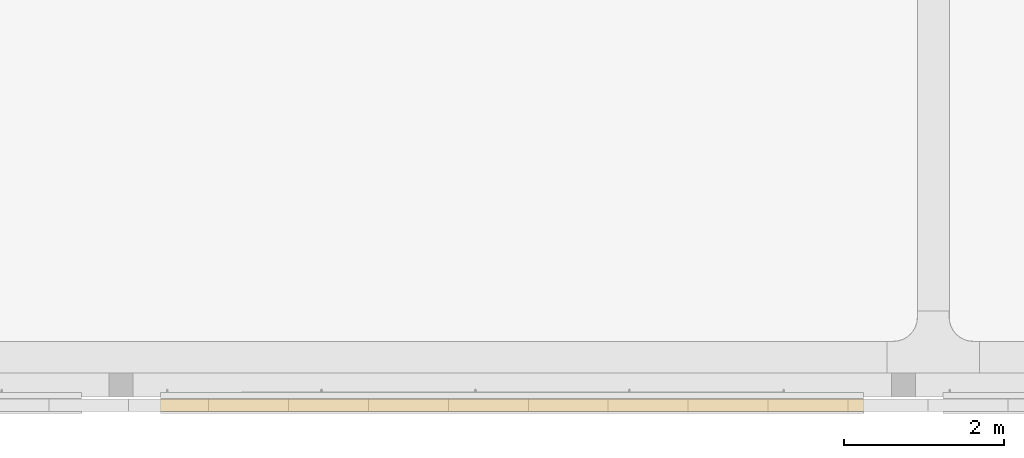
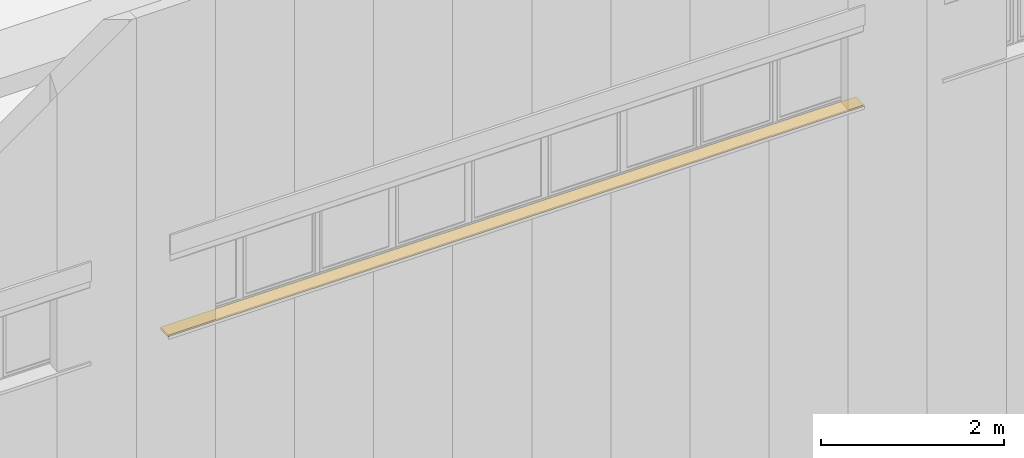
# One storey, part 218 of 302: 1 curtain wall, 1 opening, 1 element without a shape of its own.
"""IFC2X3 building model written with IfcOpenShell, lengths in metres."""

import ifcopenshell
import ifcopenshell.guid

model = None  # the IFC model being written
_history = None  # IfcOwnerHistory: only IFC2X3 demands one
_inside = {}  # id of a spatial element -> (the spatial element, [elements in it])
_under = {}  # id of a project, library or spatial element -> (it, [spatial elements below it])
_declared = {}  # id of a project -> (the project, [libraries it declares])
_typed = {}  # id of a type object -> (the type object, [elements of that type])
_made_of = {}  # id of a material, layer set ... -> (it, [elements and type objects made of it])


def new_model(schema):
    """Start an empty IFC model of exactly this schema.

    Asked for "IFC4X3", IfcOpenShell would pick the latest addendum, in which some entities
    have other attributes; the version numbers below select the first issue.
    IFC2X3 requires an IfcOwnerHistory on every rooted entity: one is made here for all.
    """
    global model, _history
    if schema == "IFC4X3":
        model = ifcopenshell.file(schema_version=(4, 3, 0, 0))
    else:
        model = ifcopenshell.file(schema=schema)
    _inside.clear()
    _under.clear()
    _declared.clear()
    _typed.clear()
    _made_of.clear()
    _history = None
    if model.schema == "IFC2X3":
        org = make("IfcOrganization", Name="unknown")
        user = make(
            "IfcPersonAndOrganization",
            ThePerson=make("IfcPerson", FamilyName="unknown"),
            TheOrganization=org,
        )
        app = make(
            "IfcApplication",
            ApplicationDeveloper=org,
            Version="unknown",
            ApplicationFullName="unknown",
            ApplicationIdentifier="unknown",
        )
        _history = make(
            "IfcOwnerHistory",
            OwningUser=user,
            OwningApplication=app,
            ChangeAction="ADDED",
            CreationDate=0,
        )
    return model


def make(cls, **values):
    """One entity of the class cls with the attributes given. An attribute that is None is left unset."""
    return model.create_entity(
        cls, **{name: value for name, value in values.items() if value is not None}
    )


def entity(cls, *values):
    """Any entity or typed value of the class cls, its attributes in the order of the schema. None: left unset."""
    e = model.create_entity(cls)
    for i, value in enumerate(values):
        if value is not None:
            e[i] = value
    return e


def rooted(cls, **values):
    """An entity with a GlobalId (a new one), such as an element, a storey or a relation."""
    return make(cls, GlobalId=ifcopenshell.guid.new(), OwnerHistory=_history, **values)


def si_unit(unit_type, name, prefix=None):
    """IfcSIUnit, for example si_unit("LENGTHUNIT", "METRE", prefix="MILLI")."""
    return make("IfcSIUnit", UnitType=unit_type, Prefix=prefix, Name=name)


def converted_unit(unit_type, name, factor, base, dimensions=None, offset=None):
    """IfcConversionBasedUnit, such as the inch: factor (a typed value) times the base unit."""
    return make(
        "IfcConversionBasedUnit"
        if offset is None
        else "IfcConversionBasedUnitWithOffset",
        ConversionOffset=offset,
        Dimensions=None
        if dimensions is None
        else entity("IfcDimensionalExponents", *dimensions),
        UnitType=unit_type,
        Name=name,
        ConversionFactor=make(
            "IfcMeasureWithUnit", ValueComponent=factor, UnitComponent=base
        ),
    )


def derived_unit(unit_type, elements):
    """IfcDerivedUnit: a product of units, each with its exponent."""
    return make(
        "IfcDerivedUnit",
        Elements=[
            make("IfcDerivedUnitElement", Unit=unit, Exponent=power)
            for unit, power in elements
        ],
        UnitType=unit_type,
    )


def assignment(units):
    """IfcUnitAssignment: the units of a project."""
    return None if units is None else make("IfcUnitAssignment", Units=units)


def point(xyz):
    """IfcCartesianPoint."""
    return None if xyz is None else make("IfcCartesianPoint", Coordinates=xyz)


def direction(xyz):
    """IfcDirection."""
    return None if xyz is None else make("IfcDirection", DirectionRatios=xyz)


def frame(location, z_axis=None, x_axis=None):
    """IfcAxis2Placement3D, a coordinate frame: its origin and axes. An axis left out is left unset."""
    return make(
        "IfcAxis2Placement3D",
        Location=point(location),
        Axis=direction(z_axis),
        RefDirection=direction(x_axis),
    )


def frame_2d(location, x_axis=None):
    """IfcAxis2Placement2D, a coordinate frame in the plane: its origin and x axis."""
    return make(
        "IfcAxis2Placement2D", Location=point(location), RefDirection=direction(x_axis)
    )


def origin():
    """The frame at (0, 0, 0) with its axes left unset."""
    return frame((0.0, 0.0, 0.0))


def place(relative_to, where):
    """IfcLocalPlacement: puts the frame where relative to a parent placement (None: the world)."""
    return make(
        "IfcLocalPlacement", PlacementRelTo=relative_to, RelativePlacement=where
    )


def context(
    kind, dimensions, precision=None, world=None, true_north=None, identifier=None
):
    """IfcGeometricRepresentationContext, for example the 3D "Model" context."""
    return make(
        "IfcGeometricRepresentationContext",
        ContextIdentifier=identifier,
        ContextType=kind,
        CoordinateSpaceDimension=dimensions,
        Precision=precision,
        WorldCoordinateSystem=world,
        TrueNorth=true_north,
    )


def subcontext(parent, identifier, kind, view, scale=None):
    """IfcGeometricRepresentationSubContext, for example "Body" below "Model"."""
    return make(
        "IfcGeometricRepresentationSubContext",
        ContextIdentifier=identifier,
        ContextType=kind,
        ParentContext=parent,
        TargetScale=scale,
        TargetView=view,
    )


def project(units=None, contexts=None):
    """IfcProject with its units and contexts."""
    return rooted(
        "IfcProject",
        Name="project",
        RepresentationContexts=contexts,
        UnitsInContext=assignment(units),
    )


def spatial(cls, under=None, at=None, **own):
    """A site, building, storey or space (cls), placed at a placement, below another one or the project."""
    s = rooted(cls, ObjectPlacement=at, **own)
    if under is not None:
        _under.setdefault(under.id(), (under, []))[1].append(s)
    return s


def profile(cls, at=None, kind="AREA", **sizes):
    """A parametric profile (cls). Its sizes go by their IFC names, for example OverallWidth=200.0."""
    return make(cls, ProfileType=kind, Position=at, **sizes)


def rectangle(**sizes):
    """IfcRectangleProfileDef."""
    return profile("IfcRectangleProfileDef", **sizes)


def extrude(swept, where, along, depth):
    """IfcExtrudedAreaSolid: the profile swept, set in the frame where, extruded along a direction by depth."""
    return make(
        "IfcExtrudedAreaSolid",
        SweptArea=swept,
        Position=where,
        ExtrudedDirection=direction(along),
        Depth=depth,
    )


def faces_of(points, faces, orient=None, outer=None):
    """IfcFace entities. A face is a list of loops; a loop is a list of indices into points, from 0.

    orient and outer hold one flag for each loop. By default every Orientation is true, the
    first loop of a face is its IfcFaceOuterBound and the others are IfcFaceBound.
    """
    made = []
    for i, loops in enumerate(faces):
        bounds = []
        for j, loop in enumerate(loops):
            is_outer = j == 0 if outer is None else outer[i][j]
            bounds.append(
                make(
                    "IfcFaceOuterBound" if is_outer else "IfcFaceBound",
                    Bound=make("IfcPolyLoop", Polygon=[points[k] for k in loop]),
                    Orientation=True if orient is None else orient[i][j],
                )
            )
        made.append(make("IfcFace", Bounds=bounds))
    return made


def faceted_brep(points, faces, orient=None, outer=None, voids=None):
    """IfcFacetedBrep: a solid bounded by flat faces; with voids (closed shells), ...WithVoids."""
    shared = [point(p) for p in points]
    hull = make("IfcClosedShell", CfsFaces=faces_of(shared, faces, orient, outer))
    if voids is None:
        return make("IfcFacetedBrep", Outer=hull)
    return make(
        "IfcFacetedBrepWithVoids",
        Outer=hull,
        Voids=[
            make(cls, CfsFaces=faces_of(shared, fs, o, b)) for cls, fs, o, b in voids
        ],
    )


def shape(context_of_items, identifier, shape_type, items):
    """IfcShapeRepresentation: the items that make up one representation, for example the "Body"."""
    return make(
        "IfcShapeRepresentation",
        ContextOfItems=context_of_items,
        RepresentationIdentifier=identifier,
        RepresentationType=shape_type,
        Items=items,
    )


def material(Name=None, Category=None):
    """IfcMaterial."""
    return make("IfcMaterial", Name=Name, Category=Category)


def layer(
    of_material, thickness, ventilated=None, Name=None, Category=None, Priority=None
):
    """IfcMaterialLayer: one layer of a wall or slab, of a material (None: an air gap)."""
    return make(
        "IfcMaterialLayer",
        Material=of_material,
        LayerThickness=thickness,
        IsVentilated=ventilated,
        Name=Name,
        Category=Category,
        Priority=Priority,
    )


def layer_set(layers, Name=None):
    """IfcMaterialLayerSet."""
    return make("IfcMaterialLayerSet", MaterialLayers=layers, LayerSetName=Name)


def layer_usage(for_layer_set, set_direction, sense, offset, extent=None):
    """IfcMaterialLayerSetUsage: how a layer set lies in its element."""
    return make(
        "IfcMaterialLayerSetUsage",
        ForLayerSet=for_layer_set,
        LayerSetDirection=set_direction,
        DirectionSense=sense,
        OffsetFromReferenceLine=offset,
        ReferenceExtent=extent,
    )


def made_of(thing, what):
    """Note that an element or type object is made of a material, layer set ...; save() writes the relation."""
    if what is not None:
        _made_of.setdefault(what.id(), (what, []))[1].append(thing)
    return thing


def type_object(cls, material=None, **own):
    """A type object (cls), such as IfcWallType, which elements share."""
    return made_of(rooted(cls, **own), material)


def element(
    cls,
    number,
    at=None,
    inside=None,
    cuts=None,
    type_object=None,
    material=None,
    context=None,
    identifier="Body",
    shape_type=None,
    held_by="IfcProductDefinitionShape",
    body=None,
    shapes=None,
    **own,
):
    """One element of the class cls, such as IfcWall. Its Tag is "e" and its number.

    at: its placement. inside: the storey or other place that contains it. cuts: it is an
    opening in that element (IfcRelVoidsElement). A single representation is given by context,
    identifier, shape_type and body (its items); several are given by shapes. held_by: the class
    of the entity that holds the representations. save() writes the other relations.
    """
    e = rooted(cls, Tag="e%d" % number, ObjectPlacement=at, **own)
    if body is not None:
        shapes = [shape(context, identifier, shape_type, body)]
    if shapes is not None:
        e.Representation = make(held_by, Representations=shapes)
    if inside is not None:
        _inside.setdefault(inside.id(), (inside, []))[1].append(e)
    if cuts is not None:
        rooted(
            "IfcRelVoidsElement", RelatingBuildingElement=cuts, RelatedOpeningElement=e
        )
    if type_object is not None:
        _typed.setdefault(type_object.id(), (type_object, []))[1].append(e)
    return made_of(e, material)


def aggregate(whole, parts):
    """IfcRelAggregates: a whole, such as a stair, and the parts it consists of."""
    return rooted("IfcRelAggregates", RelatingObject=whole, RelatedObjects=parts)


def save(model, path):
    """Write the relations noted so far, then the file.

    IfcRelAggregates (storeys below a building ...), IfcRelContainedInSpatialStructure (elements
    in a storey), IfcRelDefinesByType, IfcRelAssociatesMaterial and IfcRelDeclares: one each for
    every whole, place, type object, material and project.
    """
    for whole, parts in _under.values():
        aggregate(whole, parts)
    for where, things in _inside.values():
        rooted(
            "IfcRelContainedInSpatialStructure",
            RelatedElements=things,
            RelatingStructure=where,
        )
    for kind, things in _typed.values():
        rooted("IfcRelDefinesByType", RelatedObjects=things, RelatingType=kind)
    for what, things in _made_of.values():
        rooted("IfcRelAssociatesMaterial", RelatedObjects=things, RelatingMaterial=what)
    for by, libraries in _declared.values():
        rooted("IfcRelDeclares", RelatingContext=by, RelatedDefinitions=libraries)
    model.write(path)


model = new_model("IFC2X3")

# Units and contexts
model_context = context("Model", 3, precision=1e-05, world=origin(), true_north=direction((6.12303176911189e-17, 1.0)))
body_context = subcontext(model_context, "Body", "Model", "MODEL_VIEW")
ifc_project = project(units=[si_unit("LENGTHUNIT", "METRE"), si_unit("AREAUNIT", "SQUARE_METRE"), si_unit("VOLUMEUNIT", "CUBIC_METRE"), converted_unit("PLANEANGLEUNIT", "DEGREE", entity("IfcRatioMeasure", 0.0174532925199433), si_unit("PLANEANGLEUNIT", "RADIAN"), dimensions=[0, 0, 0, 0, 0, 0, 0]), si_unit("MASSUNIT", "GRAM", prefix="KILO"), derived_unit("MASSDENSITYUNIT", [(si_unit("MASSUNIT", "GRAM", prefix="KILO"), 1), (si_unit("LENGTHUNIT", "METRE"), -3)]), derived_unit("MOMENTOFINERTIAUNIT", [(si_unit("LENGTHUNIT", "METRE"), 4)]), si_unit("TIMEUNIT", "SECOND"), si_unit("FREQUENCYUNIT", "HERTZ"), si_unit("THERMODYNAMICTEMPERATUREUNIT", "DEGREE_CELSIUS"), derived_unit("THERMALTRANSMITTANCEUNIT", [(si_unit("MASSUNIT", "GRAM", prefix="KILO"), 1), (si_unit("THERMODYNAMICTEMPERATUREUNIT", "KELVIN"), -1), (si_unit("TIMEUNIT", "SECOND"), -3)]), derived_unit("VOLUMETRICFLOWRATEUNIT", [(si_unit("LENGTHUNIT", "METRE"), 3), (si_unit("TIMEUNIT", "SECOND"), -1)]), si_unit("ELECTRICCURRENTUNIT", "AMPERE"), si_unit("ELECTRICVOLTAGEUNIT", "VOLT"), si_unit("POWERUNIT", "WATT"), si_unit("FORCEUNIT", "NEWTON", prefix="KILO"), si_unit("ILLUMINANCEUNIT", "LUX"), si_unit("LUMINOUSFLUXUNIT", "LUMEN"), si_unit("LUMINOUSINTENSITYUNIT", "CANDELA"), derived_unit("USERDEFINED", [(si_unit("MASSUNIT", "GRAM", prefix="KILO"), -1), (si_unit("LENGTHUNIT", "METRE"), -2), (si_unit("TIMEUNIT", "SECOND"), 3), (si_unit("LUMINOUSFLUXUNIT", "LUMEN"), 1)]), derived_unit("LINEARVELOCITYUNIT", [(si_unit("LENGTHUNIT", "METRE"), 1), (si_unit("TIMEUNIT", "SECOND"), -1)]), si_unit("PRESSUREUNIT", "PASCAL"), derived_unit("USERDEFINED", [(si_unit("LENGTHUNIT", "METRE"), -2), (si_unit("MASSUNIT", "GRAM", prefix="KILO"), 1), (si_unit("TIMEUNIT", "SECOND"), -2)]), derived_unit("LINEARFORCEUNIT", [(si_unit("MASSUNIT", "GRAM", prefix="KILO"), 1), (si_unit("LENGTHUNIT", "METRE"), 1), (si_unit("TIMEUNIT", "SECOND"), -2), (si_unit("LENGTHUNIT", "METRE"), -1)]), derived_unit("PLANARFORCEUNIT", [(si_unit("MASSUNIT", "GRAM", prefix="KILO"), 1), (si_unit("LENGTHUNIT", "METRE"), 1), (si_unit("TIMEUNIT", "SECOND"), -2), (si_unit("LENGTHUNIT", "METRE"), -2)])], contexts=[model_context])

# Site, building, storey
site_placement = place(None, origin())
site = spatial("IfcSite", under=ifc_project, at=site_placement, Name="Default", CompositionType="ELEMENT")
building_placement = place(site_placement, origin())
building = spatial("IfcBuilding", under=site, at=building_placement, CompositionType="ELEMENT")
storey_placement = place(building_placement, frame((0.0, 0.0, -1.3)))
storey = spatial("IfcBuildingStorey", under=building, at=storey_placement, Name="00_EG", CompositionType="ELEMENT", Elevation=-1.3)

# Curtain walls, opening
curtain_wall_type_1 = type_object("IfcCurtainWallType", Name="Fassade:Sandwichpaneele 16cm", PredefinedType="NOTDEFINED")
curtain_wall_1_placement = place(storey_placement, frame((0.0, 0.0, 1.3)))
curtain_wall_1 = element("IfcCurtainWall", 1, at=curtain_wall_1_placement, inside=storey, type_object=curtain_wall_type_1, Name="Fassade:Sandwichpaneele 16cm", ObjectType="Fassade:Sandwichpaneele 16cm")
ifc_material_1 = material(Name="Prepainted_Steel-ArcelorMittal_Construction_HAIRULTRA-35-CORAL-4309-[RAL_3000]")
ifc_layer_1 = layer(ifc_material_1, 0.015)
ifc_material_2 = material(Name="ArcelorMittal-MineralWool")
ifc_layer_2 = layer(ifc_material_2, 0.13)
ifc_material_3 = material(Name="Prepainted_Steel-ArcelorMittal_Construction_INTÉRIEUR-12-WHITE-912")
ifc_layer_3 = layer(ifc_material_3, 0.015)
ifc_layer_set = layer_set([ifc_layer_1, ifc_layer_2, ifc_layer_3], Name="Fassade:Sandwichpaneele 16cm")
ifc_layer_usage = layer_usage(ifc_layer_set, "AXIS2", "POSITIVE", -0.08)
curtain_wall_type_2 = type_object("IfcCurtainWallType", Name="Basiswand:Sandwichpaneele d = 16cm aussen", PredefinedType="NOTDEFINED", material=ifc_layer_set)
curtain_wall_2_placement = place(storey_placement, frame((-246.441361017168, 14.898088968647, 6.71999999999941)))
curtain_wall_2 = element("IfcCurtainWall", 2, at=curtain_wall_2_placement, type_object=curtain_wall_type_2, material=ifc_layer_usage, Name="Basiswand:Sandwichpaneele d = 16cm aussen", ObjectType="Basiswand:Sandwichpaneele d = 16cm aussen", context=body_context, shape_type="SweptSolid", body=[
    extrude(rectangle(XDim=8.794375, YDim=0.159999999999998, at=frame_2d((4.3971875, 0.0), x_axis=(-1.0, 0.0))), origin(), (0.0, 0.0, 1.0), 0.0345454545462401),
])
opening_placement = place(curtain_wall_2_placement, frame((-0.00281250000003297, -0.080000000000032, 0.0200000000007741)))
element("IfcOpeningElement", 3, at=opening_placement, cuts=curtain_wall_2, Name="Basiswand:Sandwichpaneele d = 16cm aussen", ObjectType="Opening", context=body_context, shape_type="Brep", body=[
    faceted_brep([(0.0, 0.165000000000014, 1.43499999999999), (8.80000000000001, 0.164999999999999, 1.43499999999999), (8.80000000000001, 0.164999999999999, 0.0150000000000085), (0.0, 0.165000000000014, 0.0150000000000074), (0.0, 0.0, 1.43499999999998), (0.0, 0.0, 0.0), (8.79999999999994, 0.0, 0.0), (8.79999999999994, 0.0, 1.43499999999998)], [[[0, 1, 2, 3]], [[4, 5, 6, 7]], [[5, 4, 0, 3]], [[6, 5, 3, 2]], [[7, 6, 2, 1]], [[4, 7, 1, 0]]]),
])
aggregate(curtain_wall_1, [curtain_wall_2])

save(model, "model.ifc")
